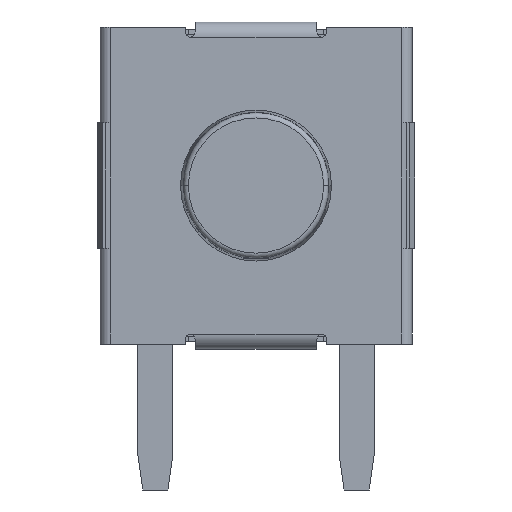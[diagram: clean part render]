
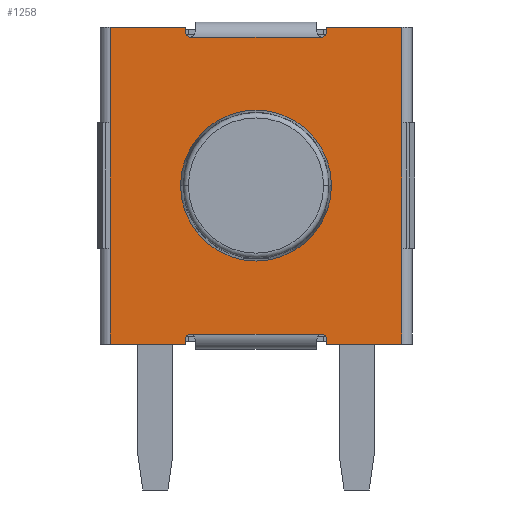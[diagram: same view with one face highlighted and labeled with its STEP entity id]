
A CAD part, front view. The second image highlights one B-rep face of the part: STEP entity #1258.
In plain terms, the highlighted planar face has unit normal (0, -1, 0).
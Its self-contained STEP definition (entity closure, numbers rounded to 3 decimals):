
#197=CARTESIAN_POINT('',(0.,-0.2,0.));
#198=DIRECTION('',(0.,-1.,0.));
#199=DIRECTION('',(1.,0.,0.));
#200=AXIS2_PLACEMENT_3D('',#197,#198,#199);
#202=CARTESIAN_POINT('',(0.,-0.2,0.));
#203=DIRECTION('',(0.,-1.,0.));
#204=DIRECTION('',(-1.,0.,0.));
#205=AXIS2_PLACEMENT_3D('',#202,#203,#204);
#207=CARTESIAN_POINT('',(1.3,-0.2,3.05));
#208=DIRECTION('',(0.,1.,0.));
#209=DIRECTION('',(1.,0.,0.));
#210=AXIS2_PLACEMENT_3D('',#207,#208,#209);
#212=DIRECTION('',(0.,0.,-1.));
#213=VECTOR('',#212,0.1);
#214=CARTESIAN_POINT('',(1.4,-0.2,3.15));
#215=LINE('',#214,#213);
#216=DIRECTION('',(1.,0.,0.));
#217=VECTOR('',#216,1.5);
#218=CARTESIAN_POINT('',(1.4,-0.2,3.15));
#219=LINE('',#218,#217);
#220=DIRECTION('',(-1.,0.,0.));
#221=VECTOR('',#220,1.5);
#222=CARTESIAN_POINT('',(2.9,-0.2,-3.15));
#223=LINE('',#222,#221);
#224=DIRECTION('',(0.,0.,1.));
#225=VECTOR('',#224,0.1);
#226=CARTESIAN_POINT('',(1.4,-0.2,-3.15));
#227=LINE('',#226,#225);
#228=CARTESIAN_POINT('',(1.3,-0.2,-3.05));
#229=DIRECTION('',(0.,-1.,0.));
#230=DIRECTION('',(1.,0.,0.));
#231=AXIS2_PLACEMENT_3D('',#228,#229,#230);
#233=CARTESIAN_POINT('',(-1.3,-0.2,-3.05));
#234=DIRECTION('',(0.,1.,0.));
#235=DIRECTION('',(-1.,0.,0.));
#236=AXIS2_PLACEMENT_3D('',#233,#234,#235);
#238=DIRECTION('',(0.,0.,1.));
#239=VECTOR('',#238,0.1);
#240=CARTESIAN_POINT('',(-1.4,-0.2,-3.15));
#241=LINE('',#240,#239);
#242=DIRECTION('',(-1.,0.,0.));
#243=VECTOR('',#242,1.5);
#244=CARTESIAN_POINT('',(-1.4,-0.2,-3.15));
#245=LINE('',#244,#243);
#246=DIRECTION('',(1.,0.,0.));
#247=VECTOR('',#246,1.5);
#248=CARTESIAN_POINT('',(-2.9,-0.2,3.15));
#249=LINE('',#248,#247);
#250=DIRECTION('',(0.,0.,-1.));
#251=VECTOR('',#250,0.1);
#252=CARTESIAN_POINT('',(-1.4,-0.2,3.15));
#253=LINE('',#252,#251);
#254=CARTESIAN_POINT('',(-1.3,-0.2,3.05));
#255=DIRECTION('',(0.,-1.,0.));
#256=DIRECTION('',(-1.,0.,0.));
#257=AXIS2_PLACEMENT_3D('',#254,#255,#256);
#283=DIRECTION('',(-1.,0.,0.));
#284=VECTOR('',#283,2.6);
#285=CARTESIAN_POINT('',(1.3,-0.2,2.95));
#286=LINE('',#285,#284);
#393=DIRECTION('',(0.,0.,-1.));
#394=VECTOR('',#393,1.9);
#395=CARTESIAN_POINT('',(2.9,-0.2,3.15));
#396=LINE('',#395,#394);
#411=DIRECTION('',(0.,0.,-1.));
#412=VECTOR('',#411,1.9);
#413=CARTESIAN_POINT('',(2.9,-0.2,-1.25));
#414=LINE('',#413,#412);
#529=DIRECTION('',(0.,0.,-1.));
#530=VECTOR('',#529,2.5);
#531=CARTESIAN_POINT('',(2.9,-0.2,1.25));
#532=LINE('',#531,#530);
#641=DIRECTION('',(1.,0.,0.));
#642=VECTOR('',#641,2.6);
#643=CARTESIAN_POINT('',(-1.3,-0.2,-2.95));
#644=LINE('',#643,#642);
#723=DIRECTION('',(0.,0.,1.));
#724=VECTOR('',#723,1.9);
#725=CARTESIAN_POINT('',(-2.9,-0.2,1.25));
#726=LINE('',#725,#724);
#741=DIRECTION('',(0.,0.,1.));
#742=VECTOR('',#741,1.9);
#743=CARTESIAN_POINT('',(-2.9,-0.2,-3.15));
#744=LINE('',#743,#742);
#787=DIRECTION('',(0.,0.,1.));
#788=VECTOR('',#787,2.5);
#789=CARTESIAN_POINT('',(-2.9,-0.2,-1.25));
#790=LINE('',#789,#788);
#795=CARTESIAN_POINT('',(1.5,-0.2,0.));
#796=CARTESIAN_POINT('',(-1.5,-0.2,0.));
#797=VERTEX_POINT('',#795);
#798=VERTEX_POINT('',#796);
#811=CARTESIAN_POINT('',(-2.9,-0.2,3.15));
#812=VERTEX_POINT('',#811);
#813=CARTESIAN_POINT('',(-2.9,-0.2,-3.15));
#814=VERTEX_POINT('',#813);
#819=CARTESIAN_POINT('',(2.9,-0.2,-3.15));
#820=VERTEX_POINT('',#819);
#821=CARTESIAN_POINT('',(2.9,-0.2,3.15));
#822=VERTEX_POINT('',#821);
#855=CARTESIAN_POINT('',(-2.9,-0.2,1.25));
#856=VERTEX_POINT('',#855);
#857=CARTESIAN_POINT('',(-2.9,-0.2,-1.25));
#858=VERTEX_POINT('',#857);
#859=CARTESIAN_POINT('',(2.9,-0.2,-1.25));
#860=VERTEX_POINT('',#859);
#861=CARTESIAN_POINT('',(2.9,-0.2,1.25));
#862=VERTEX_POINT('',#861);
#917=CARTESIAN_POINT('',(-1.4,-0.2,-3.05));
#918=CARTESIAN_POINT('',(-1.3,-0.2,-2.95));
#919=VERTEX_POINT('',#917);
#920=VERTEX_POINT('',#918);
#921=CARTESIAN_POINT('',(-1.4,-0.2,-3.15));
#922=VERTEX_POINT('',#921);
#933=CARTESIAN_POINT('',(1.4,-0.2,-3.05));
#934=CARTESIAN_POINT('',(1.3,-0.2,-2.95));
#935=VERTEX_POINT('',#933);
#936=VERTEX_POINT('',#934);
#937=CARTESIAN_POINT('',(1.4,-0.2,-3.15));
#938=VERTEX_POINT('',#937);
#965=CARTESIAN_POINT('',(1.4,-0.2,3.05));
#966=CARTESIAN_POINT('',(1.3,-0.2,2.95));
#967=VERTEX_POINT('',#965);
#968=VERTEX_POINT('',#966);
#969=CARTESIAN_POINT('',(1.4,-0.2,3.15));
#970=VERTEX_POINT('',#969);
#981=CARTESIAN_POINT('',(-1.4,-0.2,3.05));
#982=CARTESIAN_POINT('',(-1.3,-0.2,2.95));
#983=VERTEX_POINT('',#981);
#984=VERTEX_POINT('',#982);
#985=CARTESIAN_POINT('',(-1.4,-0.2,3.15));
#986=VERTEX_POINT('',#985);
#1210=CARTESIAN_POINT('',(0.,-0.2,0.));
#1211=DIRECTION('',(0.,1.,0.));
#1212=DIRECTION('',(1.,0.,0.));
#1213=AXIS2_PLACEMENT_3D('',#1210,#1211,#1212);
#1214=PLANE('',#1213);
#1216=ORIENTED_EDGE('',*,*,#1215,.F.);
#1218=ORIENTED_EDGE('',*,*,#1217,.F.);
#1219=ORIENTED_EDGE('',*,*,#1126,.F.);
#1220=ORIENTED_EDGE('',*,*,#1098,.T.);
#1222=ORIENTED_EDGE('',*,*,#1221,.T.);
#1224=ORIENTED_EDGE('',*,*,#1223,.T.);
#1226=ORIENTED_EDGE('',*,*,#1225,.T.);
#1228=ORIENTED_EDGE('',*,*,#1227,.T.);
#1230=ORIENTED_EDGE('',*,*,#1229,.T.);
#1232=ORIENTED_EDGE('',*,*,#1231,.T.);
#1234=ORIENTED_EDGE('',*,*,#1233,.F.);
#1236=ORIENTED_EDGE('',*,*,#1235,.F.);
#1238=ORIENTED_EDGE('',*,*,#1237,.F.);
#1240=ORIENTED_EDGE('',*,*,#1239,.T.);
#1242=ORIENTED_EDGE('',*,*,#1241,.T.);
#1244=ORIENTED_EDGE('',*,*,#1243,.T.);
#1246=ORIENTED_EDGE('',*,*,#1245,.T.);
#1247=ORIENTED_EDGE('',*,*,#1110,.T.);
#1249=ORIENTED_EDGE('',*,*,#1248,.T.);
#1251=ORIENTED_EDGE('',*,*,#1250,.T.);
#1252=EDGE_LOOP('',(#1216,#1218,#1219,#1220,#1222,#1224,#1226,#1228,#1230,#1232,
#1234,#1236,#1238,#1240,#1242,#1244,#1246,#1247,#1249,#1251));
#1253=FACE_OUTER_BOUND('',#1252,.F.);
#1254=ORIENTED_EDGE('',*,*,#1190,.T.);
#1255=ORIENTED_EDGE('',*,*,#1204,.T.);
#1256=EDGE_LOOP('',(#1254,#1255));
#1257=FACE_BOUND('',#1256,.F.);
#201=CIRCLE('',#200,1.5);
#206=CIRCLE('',#205,1.5);
#211=CIRCLE('',#210,0.1);
#232=CIRCLE('',#231,0.1);
#237=CIRCLE('',#236,0.1);
#258=CIRCLE('',#257,0.1);
#1098=EDGE_CURVE('',#970,#822,#219,.T.);
#1110=EDGE_CURVE('',#812,#986,#249,.T.);
#1126=EDGE_CURVE('',#970,#967,#215,.T.);
#1190=EDGE_CURVE('',#797,#798,#201,.T.);
#1204=EDGE_CURVE('',#798,#797,#206,.T.);
#1215=EDGE_CURVE('',#968,#984,#286,.T.);
#1217=EDGE_CURVE('',#967,#968,#211,.T.);
#1221=EDGE_CURVE('',#822,#862,#396,.T.);
#1223=EDGE_CURVE('',#862,#860,#532,.T.);
#1225=EDGE_CURVE('',#860,#820,#414,.T.);
#1227=EDGE_CURVE('',#820,#938,#223,.T.);
#1229=EDGE_CURVE('',#938,#935,#227,.T.);
#1231=EDGE_CURVE('',#935,#936,#232,.T.);
#1233=EDGE_CURVE('',#920,#936,#644,.T.);
#1235=EDGE_CURVE('',#919,#920,#237,.T.);
#1237=EDGE_CURVE('',#922,#919,#241,.T.);
#1239=EDGE_CURVE('',#922,#814,#245,.T.);
#1241=EDGE_CURVE('',#814,#858,#744,.T.);
#1243=EDGE_CURVE('',#858,#856,#790,.T.);
#1245=EDGE_CURVE('',#856,#812,#726,.T.);
#1248=EDGE_CURVE('',#986,#983,#253,.T.);
#1250=EDGE_CURVE('',#983,#984,#258,.T.);
#1258=ADVANCED_FACE('',(#1253,#1257),#1214,.F.);
